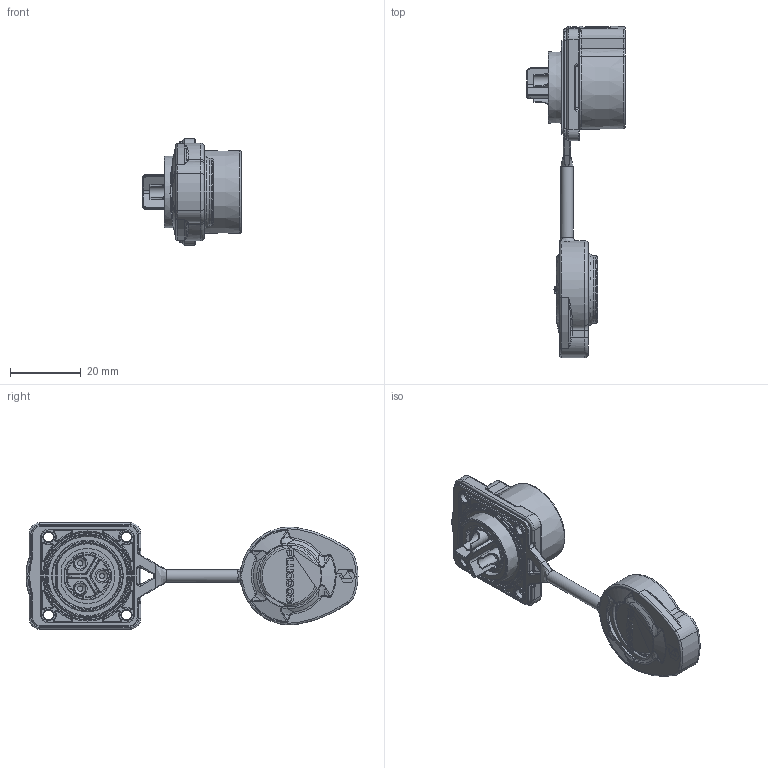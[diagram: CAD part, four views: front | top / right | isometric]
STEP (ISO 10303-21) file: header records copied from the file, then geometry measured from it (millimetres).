
FILE_DESCRIPTION (( 'STEP AP203' ), '1' );
FILE_NAME ('PLG20 3郋侐謂脣釱.STEP', '2025-03-19T12:14:30', ( '' ), ( '' ), 'SwSTEP 2.0', 'SolidWorks 2024', '' );
FILE_SCHEMA (( 'CONFIG_CONTROL_DESIGN' ));
Length unit declared in the file: millimetre
Products named in the file (1): PLG20 3芯四孔插座
Bounding box: 27.7 x 93.64 x 30 mm (x, y, z)
Volume: 12309.7 mm3; surface area: 11757.8 mm2
Topology: 1 solids, 9 shells, 1368 faces, 3389 edges, 2076 vertices
Faces by surface type: cylinder 400, plane 378, torus 259, bspline 248, cone 71, sphere 12
Full cylindrical faces by diameter (mm): 1.061 x1, 2.088 x1, 2.8 x4, 3.2 x3, 3.25 x3, 3.3 x4, 3.5 x1, 4 x3, 4.5 x3, 4.65 x3, 6 x4, 16.5 x1, 19.1 x1, 19.5 x3, 22.3 x1, 23.5 x1, 25 x1
Entity records: 46888 total; most frequent: CARTESIAN_POINT 16702, ORIENTED_EDGE 6524, DIRECTION 5910, EDGE_CURVE 3262, AXIS2_PLACEMENT_3D 2360, VERTEX_POINT 2046, EDGE_LOOP 1518, FACE_OUTER_BOUND 1426
